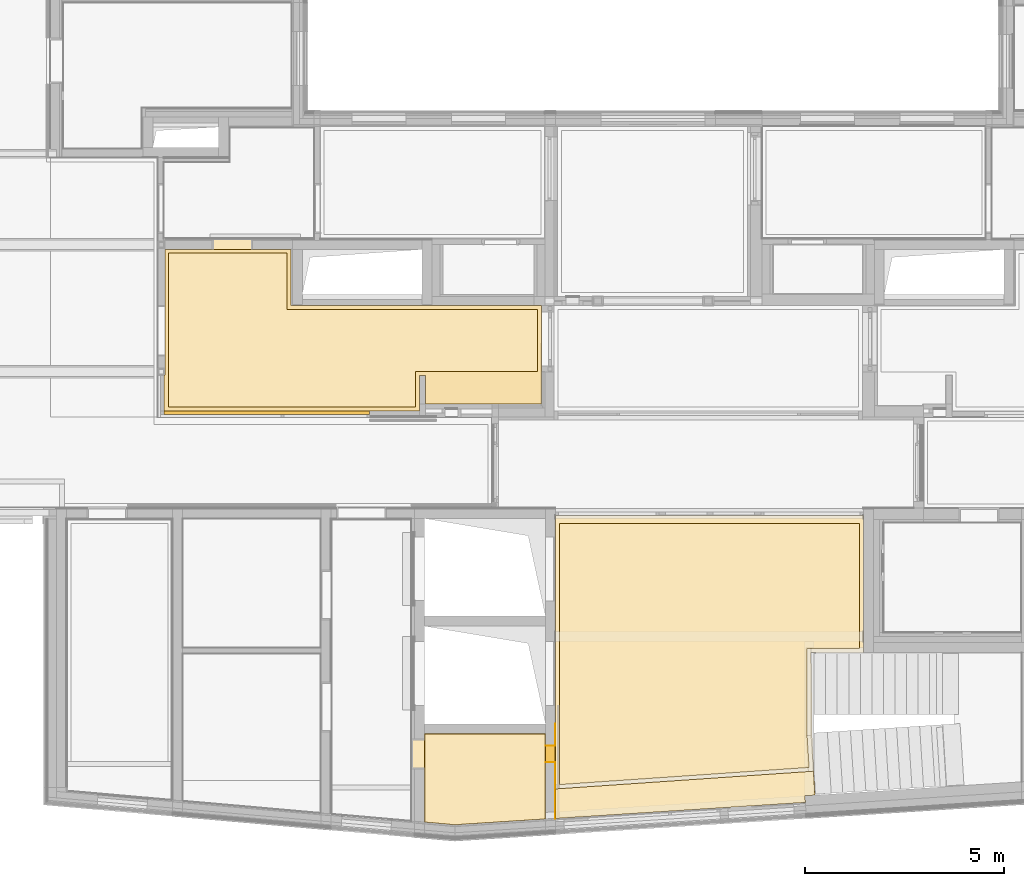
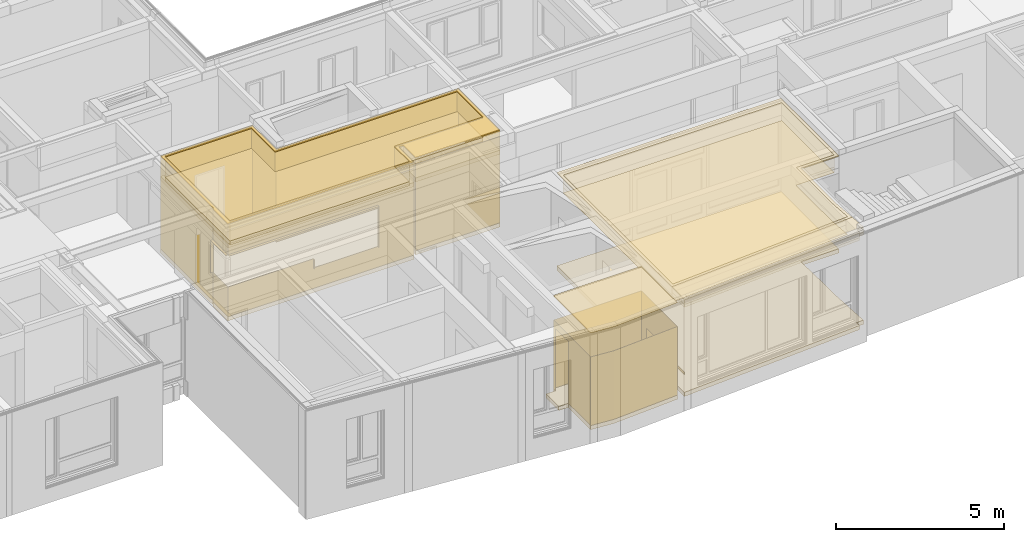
# One storey, part 166 of 222: 24 coverings.
"""IFC4 building model written with IfcOpenShell, lengths in metres."""

from ifc_helpers import new_model, entity, si_unit, converted_unit, derived_unit, frame, frame_2d, origin, origin_with_axes, place, context, subcontext, project, spatial, polyline, rectangle, outline, extrude, material, layer, layer_set, layer_usage, element, save


model = new_model("IFC4")

# Units and contexts
model_context = context("Model", 3, precision=1e-05, world=origin())
body_context = subcontext(model_context, "Body", "Model", "MODEL_VIEW")
ifc_project = project(units=[si_unit("LENGTHUNIT", "METRE"), si_unit("AREAUNIT", "SQUARE_METRE"), si_unit("VOLUMEUNIT", "CUBIC_METRE"), si_unit("MASSUNIT", "GRAM", prefix="KILO"), converted_unit("PLANEANGLEUNIT", "DEGREE", entity("IfcPlaneAngleMeasure", 0.0174532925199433), si_unit("PLANEANGLEUNIT", "RADIAN"), dimensions=[0, 0, 0, 0, 0, 0, 0]), derived_unit("THERMALTRANSMITTANCEUNIT", [(si_unit("POWERUNIT", "WATT"), 1), (si_unit("THERMODYNAMICTEMPERATUREUNIT", "KELVIN"), -1), (si_unit("LENGTHUNIT", "METRE"), -2)]), derived_unit("VOLUMETRICFLOWRATEUNIT", [(si_unit("LENGTHUNIT", "METRE"), 3), (converted_unit("TIMEUNIT", "hour", entity("IfcTimeMeasure", 3600.0), si_unit("TIMEUNIT", "SECOND"), dimensions=[0, 0, 1, 0, 0, 0, 0]), -1), (si_unit("LENGTHUNIT", "METRE"), -1)])], contexts=[model_context])

# Site, building, storey, space
site_placement = place(None, origin())
site = spatial("IfcSite", under=ifc_project, at=site_placement, Name="Psychiatrie Neubau Wunstorf", CompositionType="ELEMENT")
building_placement = place(site_placement, origin())
building = spatial("IfcBuilding", under=site, at=building_placement, Name="Neubau H2 Stationsgebäude", CompositionType="ELEMENT")
storey_placement = place(building_placement, frame((0.0, 0.0, 3.6)))
storey = spatial("IfcBuildingStorey", under=building, at=storey_placement, Name="H2 Ebene +1", CompositionType="ELEMENT", Elevation=3.6)
space_1_placement = place(storey_placement, frame((50.5500000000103, -7.25106795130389, 0.0)))
space_1 = spatial("IfcSpace", under=storey, at=space_1_placement, Name="WUN-H2-E01-T01", CompositionType="ELEMENT")

# Coverings
ifc_material_1 = material(Name="97")
ifc_layer_1 = layer(ifc_material_1, 0.001)
ifc_layer_set_1 = layer_set([ifc_layer_1])
ifc_layer_usage_1 = layer_usage(ifc_layer_set_1, "AXIS3", "POSITIVE", 0.0)
covering_1_placement = place(space_1_placement, frame((-0.25000000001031, 0.0, 0.8)))
element("IfcCovering", 1, at=covering_1_placement, inside=space_1, material=ifc_layer_usage_1, Name="Handlauf", PredefinedType="CLADDING", context=body_context, shape_type="SweptSolid", body=[
    extrude(rectangle(XDim=0.549091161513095, YDim=0.1, at=frame_2d((0.274545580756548, -0.05), x_axis=(1.0, 0.0))), frame((0.25000000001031, 2.37606764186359, 0.0), z_axis=(1.0, 0.0, 0.0), x_axis=(0.0, -1.0, 0.0)), (0.0, 0.0, 1.0), 0.001),
    extrude(rectangle(XDim=0.1, YDim=1.4069764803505, at=frame_2d((0.703488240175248, 0.05), x_axis=(0.0, 1.0))), frame((0.25000000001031, 1.4069764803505, 0.1), z_axis=(1.0, 0.0, 0.0), x_axis=(0.0, -1.0, 0.0)), (0.0, 0.0, 1.0), 0.001),
    extrude(rectangle(XDim=0.25, YDim=0.1, at=frame_2d((0.125, -0.05), x_axis=(1.0, 0.0))), frame((0.0, 1.4069764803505, 0.0), z_axis=(0.0, 1.0, 0.0), x_axis=(1.0, 0.0, 0.0)), (0.0, 0.0, 1.0), 0.001),
    extrude(rectangle(XDim=0.25, YDim=0.1, at=frame_2d((0.125, -0.05), x_axis=(1.0, 0.0))), frame((0.25, 1.8269764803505, 0.0), z_axis=(0.0, -1.0, 0.0), x_axis=(-1.0, 0.0, 0.0)), (0.0, 0.0, 1.0), 0.001),
])
ifc_material_2 = material(Name="Fl12")
ifc_layer_2 = layer(ifc_material_2, 0.15)
ifc_layer_set_2 = layer_set([ifc_layer_2])
ifc_layer_usage_2 = layer_usage(ifc_layer_set_2, "AXIS3", "POSITIVE", 0.0)
covering_2_placement = place(space_1_placement, frame((-6.13068204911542e-05, -3.93702833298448e-06, 0.0)))
element("IfcCovering", 2, at=covering_2_placement, inside=space_1, material=ifc_layer_usage_2, Name="Fliesen Großformat", PredefinedType="FLOORING", context=body_context, shape_type="SweptSolid", body=[
    extrude(outline(polyline([(6.44086743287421, 2.61256578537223), (6.41435667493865, 4.16258057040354), (7.7280613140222, 4.16258057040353), (7.72806131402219, 7.60707432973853), (6.13068204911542e-05, 7.60707432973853), (0.0, 0.0), (6.27252596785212, 0.402811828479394), (6.26205128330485, 0.571586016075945), (6.51118452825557, 0.587572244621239), (6.44086743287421, 2.08449365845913), (6.44086743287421, 2.61256578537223)])), origin_with_axes(), (0.0, 0.0, 1.0), 0.15),
])
ifc_material_3 = material()
ifc_layer_3 = layer(ifc_material_3, 0.036)
ifc_layer_set_3 = layer_set([ifc_layer_3])
ifc_layer_usage_3 = layer_usage(ifc_layer_set_3, "AXIS3", "POSITIVE", 0.0)
covering_3_placement = place(space_1_placement, frame((0.1, 0.849308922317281, 3.55)))
element("IfcCovering", 3, at=covering_3_placement, inside=space_1, material=ifc_layer_usage_3, Name="Gipsfaserplatten 2-lagig (BSK)", PredefinedType="CEILING", context=body_context, shape_type="SweptSolid", body=[
    extrude(outline(polyline([(6.26584287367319, 6.11679238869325), (0.0, 6.54775902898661), (0.0, 0.0), (7.52800000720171, 0.0), (7.52800000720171, 3.13449131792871), (6.21331183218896, 3.13449131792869), (6.21506969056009, 5.31574422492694), (6.26584287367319, 6.11679238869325)])), frame((0.0, 6.54775902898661, 0.0), z_axis=(0.0, 0.0, -1.0), x_axis=(1.0, 0.0, 0.0)), (0.0, 0.0, 1.0), 0.036),
])
ifc_material_4 = material(Name="Installationshöhe")
ifc_layer_4 = layer(ifc_material_4, 0.414)
ifc_layer_set_4 = layer_set([ifc_layer_4])
ifc_layer_usage_4 = layer_usage(ifc_layer_set_4, "AXIS3", "POSITIVE", 0.0)
covering_4_placement = place(space_1_placement, frame((0.1, 0.849308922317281, 3.514)))
element("IfcCovering", 4, at=covering_4_placement, inside=space_1, material=ifc_layer_usage_4, Name="Gipsfaserplatten 2-lagig (BSK)", PredefinedType="CEILING", context=body_context, shape_type="SweptSolid", body=[
    extrude(outline(polyline([(6.26584287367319, 6.11679238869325), (0.0, 6.54775902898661), (0.0, 0.0), (7.52800000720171, 0.0), (7.52800000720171, 3.13449131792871), (6.21331183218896, 3.13449131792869), (6.21506969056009, 5.31574422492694), (6.26584287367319, 6.11679238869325)])), frame((0.0, 6.54775902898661, 0.0), z_axis=(0.0, 0.0, -1.0), x_axis=(1.0, 0.0, 0.0)), (0.0, 0.0, 1.0), 0.414),
])
ifc_material_5 = material(Name="Aa")
ifc_layer_5 = layer(ifc_material_5, 0.2)
ifc_layer_set_5 = layer_set([ifc_layer_5])
ifc_layer_usage_5 = layer_usage(ifc_layer_set_5, "AXIS3", "POSITIVE", 0.0)
covering_5_placement = place(space_1_placement, frame((0.1, 0.849308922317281, 3.1)))
element("IfcCovering", 5, at=covering_5_placement, inside=space_1, material=ifc_layer_usage_5, Name="Gipsfaserplatten 2-lagig (BSK)", PredefinedType="CEILING", context=body_context, shape_type="SweptSolid", body=[
    extrude(outline(polyline([(6.26584287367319, 6.11679238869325), (0.0, 6.54775902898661), (0.0, 0.0), (7.52800000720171, 0.0), (7.52800000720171, 3.13449131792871), (6.21331183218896, 3.13449131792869), (6.21506969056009, 5.31574422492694), (6.26584287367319, 6.11679238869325)])), frame((0.0, 6.54775902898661, 0.0), z_axis=(0.0, 0.0, -1.0), x_axis=(1.0, 0.0, 0.0)), (0.0, 0.0, 1.0), 0.2),
])
ifc_material_6 = material(Name="D1")
ifc_layer_6 = layer(ifc_material_6, 0.001)
ifc_layer_set_6 = layer_set([ifc_layer_6])
ifc_layer_usage_6 = layer_usage(ifc_layer_set_6, "AXIS3", "POSITIVE", 0.0)
covering_6_placement = place(space_1_placement, frame((0.1, 0.849308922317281, 2.9)))
element("IfcCovering", 6, at=covering_6_placement, inside=space_1, material=ifc_layer_usage_6, Name="Gipsfaserplatten 2-lagig (BSK)", PredefinedType="CEILING", context=body_context, shape_type="SweptSolid", body=[
    extrude(outline(polyline([(6.26584287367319, 6.11679238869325), (0.0, 6.54775902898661), (0.0, 0.0), (7.52800000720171, 0.0), (7.52800000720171, 3.13449131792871), (6.21331183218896, 3.13449131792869), (6.21506969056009, 5.31574422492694), (6.26584287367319, 6.11679238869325)])), frame((0.0, 6.54775902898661, 0.0), z_axis=(0.0, 0.0, -1.0), x_axis=(1.0, 0.0, 0.0)), (0.0, 0.0, 1.0), 0.001),
])
ifc_material_7 = material()
ifc_layer_7 = layer(ifc_material_7, 0.036)
ifc_layer_set_7 = layer_set([ifc_layer_7])
ifc_layer_usage_7 = layer_usage(ifc_layer_set_7, "AXIS3", "POSITIVE", 0.0)
covering_7_placement = place(space_1_placement, frame((0.0, 0.74219463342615, 3.55)))
element("IfcCovering", 7, at=covering_7_placement, inside=space_1, material=ifc_layer_usage_7, Name="Gipsfaserplatten 2-lagig (BSK)", PredefinedType="CEILING", context=body_context, shape_type="SweptSolid", body=[
    extrude(outline(polyline([(0.0, 6.86487575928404), (0.0, 0.0), (7.7280000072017, 0.0), (7.72800000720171, 3.44449375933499), (6.41331183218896, 3.44449375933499), (6.41331183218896, 5.52254272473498), (6.4719343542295, 6.41973408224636), (0.0, 6.86487575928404)]), holes=[polyline([(7.62800000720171, 3.344493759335), (7.62800000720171, 0.210002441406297), (0.1, 0.210002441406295), (0.1, 6.75776147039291), (6.36584287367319, 6.32679483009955), (6.31506969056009, 5.52574666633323), (6.31331183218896, 3.34449375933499), (7.62800000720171, 3.344493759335)])]), frame((0.0, 6.86487575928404, 0.0), z_axis=(0.0, 0.0, -1.0), x_axis=(1.0, 0.0, 0.0)), (0.0, 0.0, 1.0), 0.036),
])
ifc_material_8 = material()
ifc_layer_8 = layer(ifc_material_8, 0.036)
ifc_layer_set_8 = layer_set([ifc_layer_8])
ifc_layer_usage_8 = layer_usage(ifc_layer_set_8, "AXIS3", "POSITIVE", 0.0)
covering_8_placement = place(space_1_placement, frame((0.0, 0.0, 3.55)))
element("IfcCovering", 8, at=covering_8_placement, inside=space_1, material=ifc_layer_usage_8, Name="Gipsfaserplatten 2-lagig (BSK)", PredefinedType="CEILING", context=body_context, shape_type="SweptSolid", body=[
    extrude(outline(polyline([(6.4719343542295, 0.0), (6.51112322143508, 0.599768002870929), (6.26163631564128, 0.615776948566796), (6.27246466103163, 0.784528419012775), (0.0, 1.18733631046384), (0.0, 0.445141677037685), (6.4719343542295, 0.0)])), frame((0.0, 1.18733631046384, 0.0), z_axis=(0.0, 0.0, -1.0), x_axis=(1.0, 0.0, 0.0)), (0.0, 0.0, 1.0), 0.036),
])
ifc_material_9 = material(Name="Installationshöhe")
ifc_layer_9 = layer(ifc_material_9, 0.164)
ifc_layer_set_9 = layer_set([ifc_layer_9])
ifc_layer_usage_9 = layer_usage(ifc_layer_set_9, "AXIS3", "POSITIVE", 0.0)
covering_9_placement = place(space_1_placement, frame((0.0, 0.0, 3.514)))
element("IfcCovering", 9, at=covering_9_placement, inside=space_1, material=ifc_layer_usage_9, Name="Gipsfaserplatten 2-lagig (BSK)", PredefinedType="CEILING", context=body_context, shape_type="SweptSolid", body=[
    extrude(outline(polyline([(6.4719343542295, 0.0), (6.51112322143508, 0.599768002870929), (6.26163631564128, 0.615776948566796), (6.27246466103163, 0.784528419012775), (0.0, 1.18733631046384), (0.0, 0.445141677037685), (6.4719343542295, 0.0)])), frame((0.0, 1.18733631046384, 0.0), z_axis=(0.0, 0.0, -1.0), x_axis=(1.0, 0.0, 0.0)), (0.0, 0.0, 1.0), 0.164),
])
ifc_material_10 = material(Name="A1")
ifc_layer_10 = layer(ifc_material_10, 0.1)
ifc_layer_set_10 = layer_set([ifc_layer_10])
ifc_layer_usage_10 = layer_usage(ifc_layer_set_10, "AXIS3", "POSITIVE", 0.0)
covering_10_placement = place(space_1_placement, frame((0.0, 0.0, 3.35)))
element("IfcCovering", 10, at=covering_10_placement, inside=space_1, material=ifc_layer_usage_10, Name="Gipsfaserplatten 2-lagig (BSK)", PredefinedType="CEILING", context=body_context, shape_type="SweptSolid", body=[
    extrude(outline(polyline([(6.4719343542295, 0.0), (6.51112322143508, 0.599768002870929), (6.26163631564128, 0.615776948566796), (6.27246466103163, 0.784528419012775), (0.0, 1.18733631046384), (0.0, 0.445141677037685), (6.4719343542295, 0.0)])), frame((0.0, 1.18733631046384, 0.0), z_axis=(0.0, 0.0, -1.0), x_axis=(1.0, 0.0, 0.0)), (0.0, 0.0, 1.0), 0.1),
])
ifc_material_11 = material(Name="D1")
ifc_layer_11 = layer(ifc_material_11, 0.001)
ifc_layer_set_11 = layer_set([ifc_layer_11])
ifc_layer_usage_11 = layer_usage(ifc_layer_set_11, "AXIS3", "POSITIVE", 0.0)
covering_11_placement = place(space_1_placement, frame((0.0, 0.0, 3.25)))
element("IfcCovering", 11, at=covering_11_placement, inside=space_1, material=ifc_layer_usage_11, Name="Gipsfaserplatten 2-lagig (BSK)", PredefinedType="CEILING", context=body_context, shape_type="SweptSolid", body=[
    extrude(outline(polyline([(6.4719343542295, 0.0), (6.51112322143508, 0.599768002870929), (6.26163631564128, 0.615776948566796), (6.27246466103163, 0.784528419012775), (0.0, 1.18733631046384), (0.0, 0.445141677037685), (6.4719343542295, 0.0)])), frame((0.0, 1.18733631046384, 0.0), z_axis=(0.0, 0.0, -1.0), x_axis=(1.0, 0.0, 0.0)), (0.0, 0.0, 1.0), 0.001),
])

# Space
space_2_placement = place(storey_placement, frame((47.2700048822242, -7.41285713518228, 0.0)))
space_2 = spatial("IfcSpace", under=storey, at=space_2_placement, Name="WUN-H2-E01-S01", CompositionType="ELEMENT")

# Coverings
ifc_material_12 = material(Name="Ku3")
ifc_layer_12 = layer(ifc_material_12, 0.15)
ifc_layer_set_12 = layer_set([ifc_layer_12])
ifc_layer_usage_12 = layer_usage(ifc_layer_set_12, "AXIS3", "POSITIVE", 0.0)
covering_12_placement = place(space_2_placement, frame((-0.33, 0.0, 0.0)))
element("IfcCovering", 12, at=covering_12_placement, inside=space_2, material=ifc_layer_usage_12, Name="PVC", PredefinedType="FLOORING", context=body_context, shape_type="SweptSolid", body=[
    extrude(rectangle(XDim=0.33000000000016, YDim=0.76, at=frame_2d((-0.16500000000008, -0.38), x_axis=(-1.0, 0.0))), frame((0.33000000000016, 2.16250227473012, 0.0), z_axis=(0.0, 0.0, 1.0), x_axis=(1.0, 0.0, 0.0)), (0.0, 0.0, 1.0), 0.15),
    extrude(outline(polyline([(0.0, 0.0667358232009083), (0.760637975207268, 0.0), (3.0299951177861, 0.145734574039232), (3.0299951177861, 2.28785682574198), (0.0, 2.28785682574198), (0.0, 0.0667358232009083)])), frame((0.33, 0.0, 0.0), z_axis=(0.0, 0.0, 1.0), x_axis=(1.0, 0.0, 0.0)), (0.0, 0.0, 1.0), 0.15),
])
ifc_material_13 = material(Name="C/C")
ifc_layer_13 = layer(ifc_material_13, 0.036)
ifc_layer_set_13 = layer_set([ifc_layer_13])
ifc_layer_usage_13 = layer_usage(ifc_layer_set_13, "AXIS3", "POSITIVE", 0.0)
covering_13_placement = place(space_2_placement, frame((0.0, 0.0, 3.55)))
element("IfcCovering", 13, at=covering_13_placement, inside=space_2, material=ifc_layer_usage_13, Name="Gipsfaserplatten 2-lagig (BSK)", PredefinedType="CEILING", context=body_context, shape_type="SweptSolid", body=[
    extrude(outline(polyline([(0.760637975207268, 2.28785682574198), (0.0, 2.22112100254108), (0.0, 0.0), (3.0299951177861, 0.0), (3.0299951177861, 2.14212225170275), (0.760637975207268, 2.28785682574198)])), frame((0.0, 2.28785682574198, 0.0), z_axis=(0.0, 0.0, -1.0), x_axis=(1.0, 0.0, 0.0)), (0.0, 0.0, 1.0), 0.036),
])
ifc_material_14 = material(Name="D4")
ifc_layer_14 = layer(ifc_material_14, 0.001)
ifc_layer_set_14 = layer_set([ifc_layer_14])
ifc_layer_usage_14 = layer_usage(ifc_layer_set_14, "AXIS3", "POSITIVE", 0.0)
covering_14_placement = place(space_2_placement, frame((0.0, 0.0, 3.514)))
element("IfcCovering", 14, at=covering_14_placement, inside=space_2, material=ifc_layer_usage_14, Name="Gipsfaserplatten 2-lagig (BSK)", PredefinedType="CEILING", context=body_context, shape_type="SweptSolid", body=[
    extrude(outline(polyline([(0.760637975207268, 2.28785682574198), (0.0, 2.22112100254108), (0.0, 0.0), (3.0299951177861, 0.0), (3.0299951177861, 2.14212225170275), (0.760637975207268, 2.28785682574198)])), frame((0.0, 2.28785682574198, 0.0), z_axis=(0.0, 0.0, -1.0), x_axis=(1.0, 0.0, 0.0)), (0.0, 0.0, 1.0), 0.001),
])
ifc_material_15 = material(Name="50")
ifc_layer_15 = layer(ifc_material_15, 0.001)
ifc_layer_set_15 = layer_set([ifc_layer_15])
ifc_layer_usage_15 = layer_usage(ifc_layer_set_15, "AXIS3", "POSITIVE", 0.0)
covering_15_placement = place(space_2_placement, frame((0.0, 0.0, 0.15)))
element("IfcCovering", 15, at=covering_15_placement, inside=space_2, material=ifc_layer_usage_15, PredefinedType="CLADDING", context=body_context, shape_type="SweptSolid", body=[
    extrude(rectangle(XDim=3.0299951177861, YDim=2.5, at=frame_2d((1.51499755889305, -1.25), x_axis=(1.0, 0.0))), frame((3.0299951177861, 2.28785682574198, 0.0), z_axis=(0.0, -1.0, 0.0), x_axis=(-1.0, 0.0, 0.0)), (0.0, 0.0, 1.0), 0.001),
    extrude(outline(polyline([(0.0, 2.5), (0.125354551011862, 2.5), (0.125354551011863, 0.24), (0.885354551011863, 0.24), (0.885354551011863, 2.5), (2.22112100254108, 2.5), (2.22112100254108, 0.0), (0.0, 0.0), (0.0, 2.5)])), frame((0.0, 2.28785682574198, 2.5), z_axis=(1.0, 0.0, -1.38981479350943e-14), x_axis=(0.0, -1.0, 0.0)), (0.0, 0.0, 1.0), 0.001),
    extrude(rectangle(XDim=0.763559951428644, YDim=2.5, at=frame_2d((0.381779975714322, -1.25), x_axis=(1.0, 0.0))), frame((0.0, 0.0667358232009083, 0.0), z_axis=(0.0874008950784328, 0.996173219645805, 0.0), x_axis=(0.996173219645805, -0.0874008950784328, 0.0)), (0.0, 0.0, 1.0), 0.001),
    extrude(rectangle(XDim=2.27403175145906, YDim=2.5, at=frame_2d((1.13701587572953, -1.25), x_axis=(1.0, 0.0))), frame((0.760637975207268, 0.0, 0.0), z_axis=(-0.0640864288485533, 0.997944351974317, 2.55966790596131e-18), x_axis=(0.997944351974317, 0.0640864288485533, 0.0)), (0.0, 0.0, 1.0), 0.001),
    extrude(outline(polyline([(0.0, 2.5), (2.14212225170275, 2.5), (2.14212225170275, 0.0), (0.0, 0.0), (0.0, 2.5)]), holes=[polyline([(1.84303109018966, 2.3), (1.42303109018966, 2.3), (1.42303109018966, 1.18), (1.84303109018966, 1.18), (1.84303109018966, 2.3)])]), frame((3.02999511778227, 0.145734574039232, 2.5), z_axis=(-1.0, -9.7702613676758e-13, 0.0), x_axis=(-9.7702613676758e-13, 1.0, 0.0)), (0.0, 0.0, 1.0), 0.001),
    extrude(rectangle(XDim=1.12, YDim=0.25, at=frame_2d((-0.125, -0.56), x_axis=(0.0, -1.0))), frame((3.27999511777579, 1.56876566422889, 0.2), z_axis=(0.0, 1.0, 0.0), x_axis=(1.0, 0.0, 0.0)), (0.0, 0.0, 1.0), 0.001),
    extrude(rectangle(XDim=0.42, YDim=0.25, at=frame_2d((0.125, 0.21), x_axis=(0.0, 1.0))), frame((3.02999511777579, 1.98876566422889, 1.32), z_axis=(0.0, 0.0, -1.0), x_axis=(1.0, 0.0, 0.0)), (0.0, 0.0, 1.0), 0.001),
    extrude(rectangle(XDim=1.12, YDim=0.25, at=frame_2d((-0.125, -0.56), x_axis=(0.0, -1.0))), frame((3.02999511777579, 1.98876566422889, 0.2), z_axis=(0.0, -1.0, 0.0), x_axis=(-1.0, 0.0, 0.0)), (0.0, 0.0, 1.0), 0.001),
])

# Space
space_3_placement = place(storey_placement, frame((40.7249975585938, 2.96734917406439, 0.0)))
space_3 = spatial("IfcSpace", under=storey, at=space_3_placement, Name="WUN-H2-E01-073", CompositionType="ELEMENT")

# Coverings
ifc_material_16 = material(Name="Installationshöhe")
ifc_layer_16 = layer(ifc_material_16, 0.714)
ifc_layer_set_16 = layer_set([ifc_layer_16])
ifc_layer_usage_16 = layer_usage(ifc_layer_set_16, "AXIS3", "POSITIVE", 0.0)
covering_16_placement = place(space_3_placement, frame((0.125151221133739, 0.1, 3.514)))
element("IfcCovering", 16, at=covering_16_placement, inside=space_3, material=ifc_layer_usage_16, Name="Gipsfaserplatten 2-lagig (BSK)", PredefinedType="CEILING", context=body_context, shape_type="SweptSolid", body=[
    extrude(outline(polyline([(1.28340935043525e-06, 3.86315051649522), (0.0, 0.0), (2.96985158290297, 0.0), (2.96985158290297, 1.41299947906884), (9.24635122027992, 1.41299947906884), (9.24635122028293, 2.96300000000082), (6.19276317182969, 2.96300000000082), (6.19276317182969, 3.86315051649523), (1.28340935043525e-06, 3.86315051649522)])), frame((0.0, 3.86315051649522, 0.0), z_axis=(0.0, 0.0, -1.0), x_axis=(1.0, 0.0, 0.0)), (0.0, 0.0, 1.0), 0.714),
])
ifc_material_17 = material(Name="Aa")
ifc_layer_17 = layer(ifc_material_17, 0.15)
ifc_layer_set_17 = layer_set([ifc_layer_17])
ifc_layer_usage_17 = layer_usage(ifc_layer_set_17, "AXIS3", "POSITIVE", 0.0)
covering_17_placement = place(space_3_placement, frame((0.125151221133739, 0.1, 2.8)))
element("IfcCovering", 17, at=covering_17_placement, inside=space_3, material=ifc_layer_usage_17, Name="Gipsfaserplatten 2-lagig (BSK)", PredefinedType="CEILING", context=body_context, shape_type="SweptSolid", body=[
    extrude(outline(polyline([(1.28340935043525e-06, 3.86315051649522), (0.0, 0.0), (2.96985158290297, 0.0), (2.96985158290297, 1.41299947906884), (9.24635122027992, 1.41299947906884), (9.24635122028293, 2.96300000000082), (6.19276317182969, 2.96300000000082), (6.19276317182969, 3.86315051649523), (1.28340935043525e-06, 3.86315051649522)])), frame((0.0, 3.86315051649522, 0.0), z_axis=(0.0, 0.0, -1.0), x_axis=(1.0, 0.0, 0.0)), (0.0, 0.0, 1.0), 0.15),
])
ifc_material_18 = material(Name="D1")
ifc_layer_18 = layer(ifc_material_18, 0.001)
ifc_layer_set_18 = layer_set([ifc_layer_18])
ifc_layer_usage_18 = layer_usage(ifc_layer_set_18, "AXIS3", "POSITIVE", 0.0)
covering_18_placement = place(space_3_placement, frame((0.125151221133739, 0.1, 2.65)))
element("IfcCovering", 18, at=covering_18_placement, inside=space_3, material=ifc_layer_usage_18, Name="Gipsfaserplatten 2-lagig (BSK)", PredefinedType="CEILING", context=body_context, shape_type="SweptSolid", body=[
    extrude(outline(polyline([(1.28340935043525e-06, 3.86315051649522), (0.0, 0.0), (2.96985158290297, 0.0), (2.96985158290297, 1.41299947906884), (9.24635122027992, 1.41299947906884), (9.24635122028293, 2.96300000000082), (6.19276317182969, 2.96300000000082), (6.19276317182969, 3.86315051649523), (1.28340935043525e-06, 3.86315051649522)])), frame((0.0, 3.86315051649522, 0.0), z_axis=(0.0, 0.0, -1.0), x_axis=(1.0, 0.0, 0.0)), (0.0, 0.0, 1.0), 0.001),
])
ifc_material_19 = material(Name="Ku1")
ifc_layer_19 = layer(ifc_material_19, 0.15)
ifc_layer_set_19 = layer_set([ifc_layer_19])
ifc_layer_usage_19 = layer_usage(ifc_layer_set_19, "AXIS3", "POSITIVE", 0.0)
covering_19_placement = place(space_3_placement, origin())
element("IfcCovering", 19, at=covering_19_placement, inside=space_3, material=ifc_layer_usage_19, Name="PVC Bahnenware Holzoptik", PredefinedType="FLOORING", context=body_context, shape_type="SweptSolid", body=[
    extrude(rectangle(XDim=0.272, YDim=1.01, at=frame_2d((-0.505, 0.136), x_axis=(0.0, 1.0))), frame((2.22500244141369, 4.06065051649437, 0.0), z_axis=(0.0, 0.0, 1.0), x_axis=(1.0, 0.0, 0.0)), (0.0, 0.0, 1.0), 0.15),
    extrude(outline(polyline([(6.41791439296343, 0.900150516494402), (6.56791439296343, 0.900150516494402), (6.56791439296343, 0.17515051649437), (9.47100244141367, 0.175150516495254), (9.47150244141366, 2.65015103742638), (3.19500280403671, 2.65015103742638), (3.19500280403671, 4.06065051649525), (0.0251503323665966, 4.06065051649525), (0.0251503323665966, 1.08264777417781), (0.03, 1.08264777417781), (0.03, 0.902647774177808), (0.0, 0.902647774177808), (0.0, 0.0), (6.41791439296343, 0.0), (6.41791439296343, 0.900150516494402)])), origin_with_axes(), (0.0, 0.0, 1.0), 0.15),
])
ifc_material_20 = material()
ifc_layer_20 = layer(ifc_material_20, 0.036)
ifc_layer_set_20 = layer_set([ifc_layer_20])
ifc_layer_usage_20 = layer_usage(ifc_layer_set_20, "AXIS3", "POSITIVE", 0.0)
covering_20_placement = place(space_3_placement, frame((0.0, 0.0, 3.55)))
element("IfcCovering", 20, at=covering_20_placement, inside=space_3, material=ifc_layer_usage_20, Name="Gipsfaserplatten 2-lagig (BSK)", PredefinedType="CEILING", context=body_context, shape_type="SweptSolid", body=[
    extrude(outline(polyline([(6.56791439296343, 3.16050000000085), (6.41791439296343, 3.16050000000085), (6.41791439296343, 4.06065051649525), (0.0, 4.06065051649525), (0.0, 3.15800274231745), (0.03, 3.15800274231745), (0.03, 2.97800274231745), (0.0251503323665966, 2.97800274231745), (0.0251503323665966, 0.0), (3.19500280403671, 0.0), (3.19500280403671, 1.41049947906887), (9.47150244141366, 1.41049947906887), (9.47100244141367, 3.8855), (6.56791439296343, 3.88550000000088), (6.56791439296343, 3.16050000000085)]), holes=[polyline([(0.125151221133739, 0.0975000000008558), (0.12515250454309, 3.96065051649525), (6.31791439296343, 3.96065051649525), (6.31791439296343, 3.06050000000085), (9.37150244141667, 3.06050000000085), (9.37150244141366, 1.51049947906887), (3.09500280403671, 1.51049947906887), (3.09500280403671, 0.0975000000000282), (0.125151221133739, 0.0975000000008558)])]), frame((0.0, 4.06065051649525, 0.0), z_axis=(0.0, 0.0, -1.0), x_axis=(1.0, 0.0, 0.0)), (0.0, 0.0, 1.0), 0.036),
])
ifc_material_21 = material(Name="Installationshöhe")
ifc_layer_21 = layer(ifc_material_21, 0.714)
ifc_layer_set_21 = layer_set([ifc_layer_21])
ifc_layer_usage_21 = layer_usage(ifc_layer_set_21, "AXIS3", "POSITIVE", 0.0)
covering_21_placement = place(space_3_placement, frame((0.0, 0.0, 3.514)))
element("IfcCovering", 21, at=covering_21_placement, inside=space_3, material=ifc_layer_usage_21, Name="Gipsfaserplatten 2-lagig (BSK)", PredefinedType="CEILING", context=body_context, shape_type="SweptSolid", body=[
    extrude(outline(polyline([(6.56791439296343, 3.16050000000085), (6.41791439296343, 3.16050000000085), (6.41791439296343, 4.06065051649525), (0.0, 4.06065051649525), (0.0, 3.15800274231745), (0.03, 3.15800274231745), (0.03, 2.97800274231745), (0.0251503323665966, 2.97800274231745), (0.0251503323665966, 0.0), (3.19500280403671, 0.0), (3.19500280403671, 1.41049947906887), (9.47150244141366, 1.41049947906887), (9.47100244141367, 3.8855), (6.56791439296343, 3.88550000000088), (6.56791439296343, 3.16050000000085)]), holes=[polyline([(0.125151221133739, 0.0975000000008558), (0.12515250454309, 3.96065051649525), (6.31791439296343, 3.96065051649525), (6.31791439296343, 3.06050000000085), (9.37150244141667, 3.06050000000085), (9.37150244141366, 1.51049947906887), (3.09500280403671, 1.51049947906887), (3.09500280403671, 0.0975000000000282), (0.125151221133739, 0.0975000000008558)])]), frame((0.0, 4.06065051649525, 0.0), z_axis=(0.0, 0.0, -1.0), x_axis=(1.0, 0.0, 0.0)), (0.0, 0.0, 1.0), 0.714),
])
ifc_material_22 = material(Name="A1")
ifc_layer_22 = layer(ifc_material_22, 0.15)
ifc_layer_set_22 = layer_set([ifc_layer_22])
ifc_layer_usage_22 = layer_usage(ifc_layer_set_22, "AXIS3", "POSITIVE", 0.0)
covering_22_placement = place(space_3_placement, frame((0.0, 0.0, 2.8)))
element("IfcCovering", 22, at=covering_22_placement, inside=space_3, material=ifc_layer_usage_22, Name="Gipsfaserplatten 2-lagig (BSK)", PredefinedType="CEILING", context=body_context, shape_type="SweptSolid", body=[
    extrude(outline(polyline([(6.56791439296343, 3.16050000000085), (6.41791439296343, 3.16050000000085), (6.41791439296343, 4.06065051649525), (0.0, 4.06065051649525), (0.0, 3.15800274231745), (0.03, 3.15800274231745), (0.03, 2.97800274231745), (0.0251503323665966, 2.97800274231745), (0.0251503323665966, 0.0), (3.19500280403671, 0.0), (3.19500280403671, 1.41049947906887), (9.47150244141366, 1.41049947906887), (9.47100244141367, 3.8855), (6.56791439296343, 3.88550000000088), (6.56791439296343, 3.16050000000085)]), holes=[polyline([(0.125151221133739, 0.0975000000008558), (0.12515250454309, 3.96065051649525), (6.31791439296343, 3.96065051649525), (6.31791439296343, 3.06050000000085), (9.37150244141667, 3.06050000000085), (9.37150244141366, 1.51049947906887), (3.09500280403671, 1.51049947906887), (3.09500280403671, 0.0975000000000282), (0.125151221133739, 0.0975000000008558)])]), frame((0.0, 4.06065051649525, 0.0), z_axis=(0.0, 0.0, -1.0), x_axis=(1.0, 0.0, 0.0)), (0.0, 0.0, 1.0), 0.15),
])
ifc_material_23 = material(Name="D1")
ifc_layer_23 = layer(ifc_material_23, 0.001)
ifc_layer_set_23 = layer_set([ifc_layer_23])
ifc_layer_usage_23 = layer_usage(ifc_layer_set_23, "AXIS3", "POSITIVE", 0.0)
covering_23_placement = place(space_3_placement, frame((0.0, 0.0, 2.65)))
element("IfcCovering", 23, at=covering_23_placement, inside=space_3, material=ifc_layer_usage_23, Name="Gipsfaserplatten 2-lagig (BSK)", PredefinedType="CEILING", context=body_context, shape_type="SweptSolid", body=[
    extrude(outline(polyline([(6.56791439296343, 3.16050000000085), (6.41791439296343, 3.16050000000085), (6.41791439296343, 4.06065051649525), (0.0, 4.06065051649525), (0.0, 3.15800274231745), (0.03, 3.15800274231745), (0.03, 2.97800274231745), (0.0251503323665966, 2.97800274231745), (0.0251503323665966, 0.0), (3.19500280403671, 0.0), (3.19500280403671, 1.41049947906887), (9.47150244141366, 1.41049947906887), (9.47100244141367, 3.8855), (6.56791439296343, 3.88550000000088), (6.56791439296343, 3.16050000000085)]), holes=[polyline([(0.125151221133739, 0.0975000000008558), (0.12515250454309, 3.96065051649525), (6.31791439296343, 3.96065051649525), (6.31791439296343, 3.06050000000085), (9.37150244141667, 3.06050000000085), (9.37150244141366, 1.51049947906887), (3.09500280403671, 1.51049947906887), (3.09500280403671, 0.0975000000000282), (0.125151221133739, 0.0975000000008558)])]), frame((0.0, 4.06065051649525, 0.0), z_axis=(0.0, 0.0, -1.0), x_axis=(1.0, 0.0, 0.0)), (0.0, 0.0, 1.0), 0.001),
])
ifc_material_24 = material(Name="49")
ifc_layer_24 = layer(ifc_material_24, 0.001)
ifc_layer_set_24 = layer_set([ifc_layer_24])
ifc_layer_usage_24 = layer_usage(ifc_layer_set_24, "AXIS3", "POSITIVE", 0.0)
covering_24_placement = place(space_3_placement, frame((-0.08, -0.08, 0.15)))
element("IfcCovering", 24, at=covering_24_placement, inside=space_3, material=ifc_layer_usage_24, PredefinedType="CLADDING", context=body_context, shape_type="SweptSolid", body=[
    extrude(outline(polyline([(0.0, 3.15), (6.41791439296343, 3.15), (6.41791439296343, 0.0), (0.0, 0.0), (0.0, 0.89), (5.16500307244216, 0.89), (5.16500307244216, 2.4), (2.94500307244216, 2.4), (2.94500307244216, 2.07), (0.0, 2.07), (0.0, 3.15)])), frame((0.08, 0.08, 3.15), z_axis=(-4.8692371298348e-18, 1.0, 7.7283917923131e-17), x_axis=(1.0, 4.8692371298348e-18, 0.0)), (0.0, 0.0, 1.0), 0.001),
    extrude(rectangle(XDim=0.900150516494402, YDim=3.15, at=frame_2d((0.450075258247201, -1.575), x_axis=(1.0, 0.0))), frame((6.49791439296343, 0.08, 0.0), z_axis=(-1.0, 0.0, 0.0), x_axis=(0.0, 1.0, 0.0)), (0.0, 0.0, 1.0), 0.001),
    extrude(rectangle(XDim=0.15, YDim=3.15, at=frame_2d((0.075, -1.575), x_axis=(1.0, 0.0))), frame((6.49791439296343, 0.980150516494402, 0.0), z_axis=(0.0, 1.0, 0.0), x_axis=(1.0, 0.0, 0.0)), (0.0, 0.0, 1.0), 0.001),
    extrude(rectangle(XDim=0.725000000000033, YDim=3.15, at=frame_2d((0.362500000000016, -1.575), x_axis=(1.0, 0.0))), frame((6.64791439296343, 0.980150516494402, 0.0), z_axis=(1.0, 0.0, 0.0), x_axis=(0.0, -1.0, 0.0)), (0.0, 0.0, 1.0), 0.001),
    extrude(rectangle(XDim=2.90308804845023, YDim=3.15, at=frame_2d((1.45154402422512, -1.575), x_axis=(1.0, 0.0))), frame((6.64791439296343, 0.25515051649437, 0.0), z_axis=(-3.04513275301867e-13, 1.0, 1.15781602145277e-29), x_axis=(1.0, 3.04513275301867e-13, 0.0)), (0.0, 0.0, 1.0), 0.001),
    extrude(rectangle(XDim=2.47500057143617, YDim=3.15, at=frame_2d((1.23750028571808, -1.575), x_axis=(1.0, 0.0))), frame((9.55100244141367, 0.255150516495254, 0.0), z_axis=(-0.999999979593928, 0.000202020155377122, 0.0), x_axis=(0.000202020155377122, 0.999999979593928, 0.0)), (0.0, 0.0, 1.0), 0.001),
    extrude(rectangle(XDim=6.27649963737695, YDim=3.15, at=frame_2d((3.13824981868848, -1.575), x_axis=(1.0, 0.0))), frame((9.55150244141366, 2.73015103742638, 0.0), z_axis=(0.0, -1.0, 0.0), x_axis=(-1.0, 0.0, 0.0)), (0.0, 0.0, 1.0), 0.001),
    extrude(rectangle(XDim=1.41049947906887, YDim=3.15, at=frame_2d((0.705249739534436, -1.575), x_axis=(1.0, 0.0))), frame((3.27500280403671, 2.73015103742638, 0.0), z_axis=(-1.0, 0.0, 0.0), x_axis=(0.0, 1.0, 0.0)), (0.0, 0.0, 1.0), 0.001),
    extrude(outline(polyline([(0.0, 3.15), (0.970000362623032, 3.15), (0.970000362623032, 0.89), (1.98000036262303, 0.89), (1.98000036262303, 3.15), (3.16985247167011, 3.15), (3.16985247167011, 0.0), (0.0, 0.0), (0.0, 3.15)])), frame((3.27500280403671, 4.14065051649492, 3.15), z_axis=(0.0, -1.0, -6.1511136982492e-14), x_axis=(-1.0, 0.0, 0.0)), (0.0, 0.0, 1.0), 0.001),
    extrude(rectangle(XDim=2.97800274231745, YDim=3.15, at=frame_2d((1.48900137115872, -1.575), x_axis=(1.0, 0.0))), frame((0.105150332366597, 4.14065051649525, 0.0), z_axis=(1.0, 0.0, 0.0), x_axis=(0.0, -1.0, 0.0)), (0.0, 0.0, 1.0), 0.001),
    extrude(rectangle(XDim=0.00484966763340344, YDim=3.15, at=frame_2d((0.00242483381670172, -1.575), x_axis=(1.0, 0.0))), frame((0.105150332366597, 1.16264777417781, 0.0), z_axis=(0.0, 1.0, 0.0), x_axis=(1.0, 0.0, 0.0)), (0.0, 0.0, 1.0), 0.001),
    extrude(rectangle(XDim=0.18, YDim=3.15, at=frame_2d((0.09, -1.575), x_axis=(1.0, 0.0))), frame((0.11, 1.16264777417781, 0.0), z_axis=(1.0, 0.0, 0.0), x_axis=(0.0, -1.0, 0.0)), (0.0, 0.0, 1.0), 0.001),
    extrude(rectangle(XDim=0.03, YDim=3.15, at=frame_2d((0.015, -1.575), x_axis=(1.0, 0.0))), frame((0.11, 0.982647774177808, 0.0), z_axis=(0.0, -1.0, 0.0), x_axis=(-1.0, 0.0, 0.0)), (0.0, 0.0, 1.0), 0.001),
    extrude(rectangle(XDim=0.902647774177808, YDim=1.08, at=frame_2d((0.451323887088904, -0.54), x_axis=(1.0, 0.0))), frame((0.08, 0.982647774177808, 0.0), z_axis=(1.0, 0.0, 0.0), x_axis=(0.0, -1.0, 0.0)), (0.0, 0.0, 1.0), 0.001),
    extrude(rectangle(XDim=0.902647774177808, YDim=0.89, at=frame_2d((0.451323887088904, -0.445), x_axis=(1.0, 0.0))), frame((0.08, 0.982647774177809, 2.26), z_axis=(1.0, 0.0, 0.0), x_axis=(0.0, -1.0, 0.0)), (0.0, 0.0, 1.0), 0.001),
    extrude(rectangle(XDim=1.51, YDim=0.0800000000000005, at=frame_2d((-0.0400000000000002, -0.755), x_axis=(0.0, -1.0))), frame((5.24500307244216, 0.0800000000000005, 0.75), z_axis=(-1.0, 0.0, 0.0), x_axis=(0.0, 1.0, 0.0)), (0.0, 0.0, 1.0), 0.001),
    extrude(rectangle(XDim=5.16500307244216, YDim=0.0800000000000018, at=frame_2d((-2.58250153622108, 0.0400000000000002), x_axis=(-1.0, -2.64131895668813e-16))), frame((5.24500307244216, 0.0800000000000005, 2.26), z_axis=(0.0, 0.0, -1.0), x_axis=(1.0, 0.0, 0.0)), (0.0, 0.0, 1.0), 0.001),
    extrude(rectangle(XDim=0.33, YDim=0.0800000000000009, at=frame_2d((-0.0400000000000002, -0.165), x_axis=(1.37802227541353e-15, -1.0))), frame((3.02500307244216, 0.0, 0.75), z_axis=(1.0, 0.0, 0.0), x_axis=(0.0, -1.0, 0.0)), (0.0, 0.0, 1.0), 0.001),
    extrude(rectangle(XDim=1.18, YDim=0.08, at=frame_2d((-0.04, -0.59), x_axis=(0.0, -1.0))), frame((0.0, 0.982647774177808, 1.08), z_axis=(0.0, -1.0, 0.0), x_axis=(-1.0, 0.0, 0.0)), (0.0, 0.0, 1.0), 0.001),
    extrude(rectangle(XDim=0.902647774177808, YDim=0.08, at=frame_2d((0.04, 0.451323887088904), x_axis=(0.0, 1.0))), frame((0.0, 0.982647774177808, 2.26), z_axis=(0.0, 0.0, -1.0), x_axis=(1.0, 0.0, 0.0)), (0.0, 0.0, 1.0), 0.001),
])

save(model, "model.ifc")
